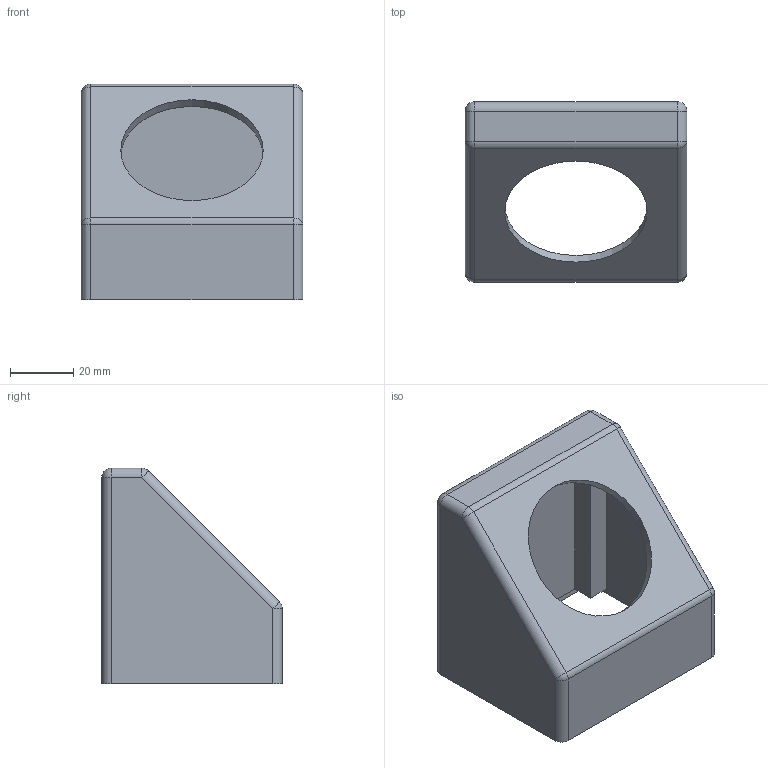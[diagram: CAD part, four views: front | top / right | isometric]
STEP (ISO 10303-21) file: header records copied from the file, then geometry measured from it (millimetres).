
FILE_DESCRIPTION(('Open CASCADE Model'),'2;1');
FILE_NAME('Open CASCADE Shape Model','2026-11-06T11:55:26',('Author'),( 'Open CASCADE'),'Open CASCADE STEP processor 8.0','build123d', 'Unknown');
FILE_SCHEMA(('AUTOMOTIVE_DESIGN { 1 0 10303 214 1 1 1 1 }'));
Length unit declared in the file: millimetre
Products named in the file (1): COMPOUND
Bounding box: 70 x 57 x 68.13 mm (x, y, z)
Volume: 50413.7 mm3; surface area: 30341.4 mm2
Topology: 1 solids, 1 shells, 58 faces, 144 edges, 86 vertices
Faces by surface type: plane 34, cylinder 18, sphere 6
Full cylindrical faces by diameter (mm): 2.5 x4, 45 x1
Entity records: 3363 total; most frequent: CARTESIAN_POINT 685, DIRECTION 457, ORIENTED_EDGE 276, PCURVE 276, DEFINITIONAL_REPRESENTATION 276, LINE 252, VECTOR 252, EDGE_CURVE 138
